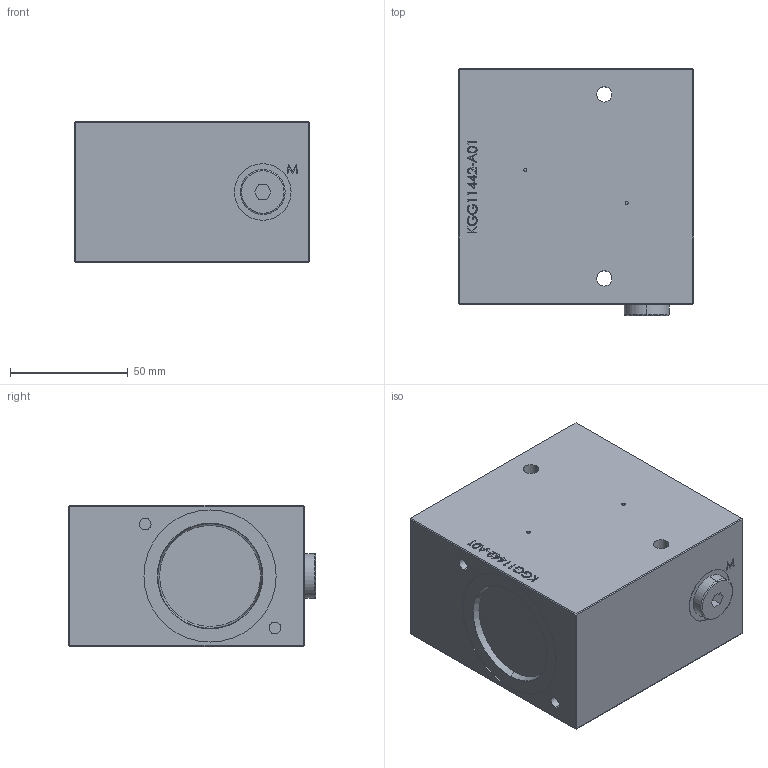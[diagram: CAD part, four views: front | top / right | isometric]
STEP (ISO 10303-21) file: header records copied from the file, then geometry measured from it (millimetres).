
FILE_DESCRIPTION (( 'STEP AP214' ), '1' );
FILE_NAME ('KGG11442-A01.STEP', '2016-11-28T07:07:06', ( '' ), ( '' ), 'SwSTEP 2.0', 'SolidWorks 2014', '' );
FILE_SCHEMA (( 'AUTOMOTIVE_DESIGN' ));
Length unit declared in the file: millimetre
Products named in the file (2): KGG11442-A01
Bounding box: 100 x 104.7 x 60 mm (x, y, z)
Volume: 584587.7 mm3; surface area: 48364.1 mm2
Topology: 2 solids, 3 shells, 256 faces, 626 edges, 408 vertices
Faces by surface type: plane 177, bspline 39, cylinder 34, torus 4, cone 2
Entity records: 12908 total; most frequent: CARTESIAN_POINT 4267, ORIENTED_EDGE 1252, DIRECTION 1066, EDGE_CURVE 626, LINE 468, VECTOR 468, VERTEX_POINT 408, AXIS2_PLACEMENT_3D 299
